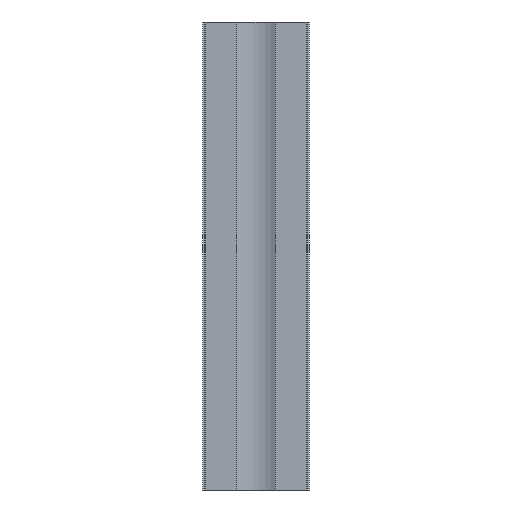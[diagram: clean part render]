
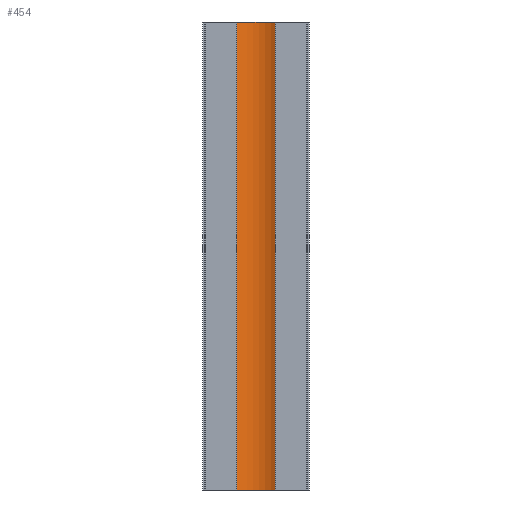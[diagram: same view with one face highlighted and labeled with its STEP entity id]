
A CAD part, front view. The second image highlights one B-rep face of the part: STEP entity #454.
In plain terms, the highlighted cylindrical face has radius 100 mm (diameter 200 mm), a partial arc.
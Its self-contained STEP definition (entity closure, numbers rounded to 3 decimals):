
#2 = DIRECTION ( 'NONE',  ( 0., 0., -1. ) ) ;
#7 = CYLINDRICAL_SURFACE ( 'NONE', #494, 100. ) ;
#21 = CIRCLE ( 'NONE', #764, 100. ) ;
#37 = VECTOR ( 'NONE', #263, 1000. ) ;
#43 = VERTEX_POINT ( 'NONE', #302 ) ;
#78 = DIRECTION ( 'NONE',  ( -1., 0., 0. ) ) ;
#82 = ORIENTED_EDGE ( 'NONE', *, *, #169, .F. ) ;
#110 = VERTEX_POINT ( 'NONE', #793 ) ;
#111 = DIRECTION ( 'NONE',  ( 0., 0., -1. ) ) ;
#134 = EDGE_CURVE ( 'NONE', #203, #895, #840, .T. ) ;
#156 = CARTESIAN_POINT ( 'NONE',  ( 0., -35., 600. ) ) ;
#169 = EDGE_CURVE ( 'NONE', #110, #43, #21, .T. ) ;
#194 = EDGE_CURVE ( 'NONE', #43, #895, #292, .T. ) ;
#203 = VERTEX_POINT ( 'NONE', #513 ) ;
#236 = ORIENTED_EDGE ( 'NONE', *, *, #370, .T. ) ;
#263 = DIRECTION ( 'NONE',  ( 0., 0., -1. ) ) ;
#275 = FACE_OUTER_BOUND ( 'NONE', #916, .T. ) ;
#292 = LINE ( 'NONE', #448, #560 ) ;
#302 = CARTESIAN_POINT ( 'NONE',  ( 87.172, 14., 600. ) ) ;
#368 = CARTESIAN_POINT ( 'NONE',  ( 0., -35., -600. ) ) ;
#370 = EDGE_CURVE ( 'NONE', #110, #203, #676, .T. ) ;
#443 = DIRECTION ( 'NONE',  ( 0., 0., -1. ) ) ;
#448 = CARTESIAN_POINT ( 'NONE',  ( 87.172, 14., 600. ) ) ;
#454 = ADVANCED_FACE ( 'NONE', ( #275 ), #7, .F. ) ;
#494 = AXIS2_PLACEMENT_3D ( 'NONE', #899, #111, #849 ) ;
#513 = CARTESIAN_POINT ( 'NONE',  ( -87.172, 14., -600. ) ) ;
#517 = DIRECTION ( 'NONE',  ( 0., 0., -1. ) ) ;
#559 = CARTESIAN_POINT ( 'NONE',  ( -87.172, 14., 600. ) ) ;
#560 = VECTOR ( 'NONE', #443, 1000. ) ;
#597 = CARTESIAN_POINT ( 'NONE',  ( 87.172, 14., -600. ) ) ;
#659 = ORIENTED_EDGE ( 'NONE', *, *, #134, .T. ) ;
#676 = LINE ( 'NONE', #559, #37 ) ;
#764 = AXIS2_PLACEMENT_3D ( 'NONE', #156, #517, #78 ) ;
#789 = ORIENTED_EDGE ( 'NONE', *, *, #194, .F. ) ;
#793 = CARTESIAN_POINT ( 'NONE',  ( -87.172, 14., 600. ) ) ;
#797 = DIRECTION ( 'NONE',  ( -1., 0., 0. ) ) ;
#840 = CIRCLE ( 'NONE', #915, 100. ) ;
#849 = DIRECTION ( 'NONE',  ( -1., 0., 0. ) ) ;
#895 = VERTEX_POINT ( 'NONE', #597 ) ;
#899 = CARTESIAN_POINT ( 'NONE',  ( 0., -35., 600. ) ) ;
#915 = AXIS2_PLACEMENT_3D ( 'NONE', #368, #2, #797 ) ;
#916 = EDGE_LOOP ( 'NONE', ( #659, #789, #82, #236 ) ) ;
